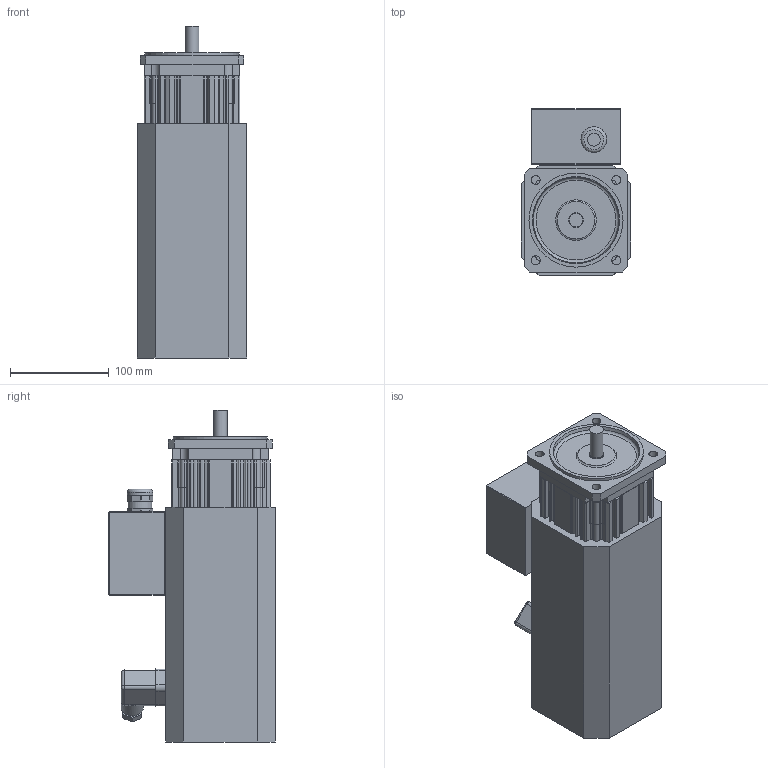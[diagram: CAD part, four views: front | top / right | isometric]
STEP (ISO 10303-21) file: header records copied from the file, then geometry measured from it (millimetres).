
FILE_DESCRIPTION(/* description */ (''),/* implementation_level */ '2;1');
FILE_NAME(/* name */ 'KSA446_MC_FS',/* time_stamp */ '2009-02-26T14:31:05+01:00',/* author */ (''),/* organization */ (''),/* preprocessor_version */ 'ST-DEVELOPER v8',/* originating_system */ 'UNIGRAPHICS SOLUTIONS - UNIGRAPHICS 18.0',/* authorisation */ '');
FILE_SCHEMA (('AUTOMOTIVE_DESIGN { 1 2 10303 214 0 1 1 1 }'));
Length unit declared in the file: millimetre
Products named in the file (7): 0280391350_0; 014146_0; 014145_0; Lagersch4AS_0; 089105X_0; Klemmenkasten_0; KSA444_MC_FS_0
Assembly tree (6 placements, depth 3):
  KSA444_MC_FS_0
    089105X_0
    Lagersch4AS_0
    Klemmenkasten_0
      0280391350_0
    014145_0
    014146_0
Bounding box: 110.7 x 168.2 x 335.5 mm (x, y, z)
Volume: 3735245.2 mm3; surface area: 326971.2 mm2
Topology: 7 solids, 7 shells, 539 faces, 1473 edges, 961 vertices
Faces by surface type: plane 258, cylinder 257, cone 8, sphere 8, torus 4, bspline 4
Full cylindrical faces by diameter (mm): 3.2 x1, 3.5 x4, 4.5 x1, 5 x2, 6.5 x4, 9 x4, 13 x2, 14 x1, 15 x1, 17 x1, 18 x1, 20 x1, 22.5 x1, 24 x1, 26 x1, 89.6 x2, 91 x1, 95 x1
Entity records: 17159 total; most frequent: CARTESIAN_POINT 3041, DIRECTION 3032, ORIENTED_EDGE 2832, EDGE_CURVE 1416, AXIS2_PLACEMENT_3D 1090, VERTEX_POINT 950, LINE 852, VECTOR 852
